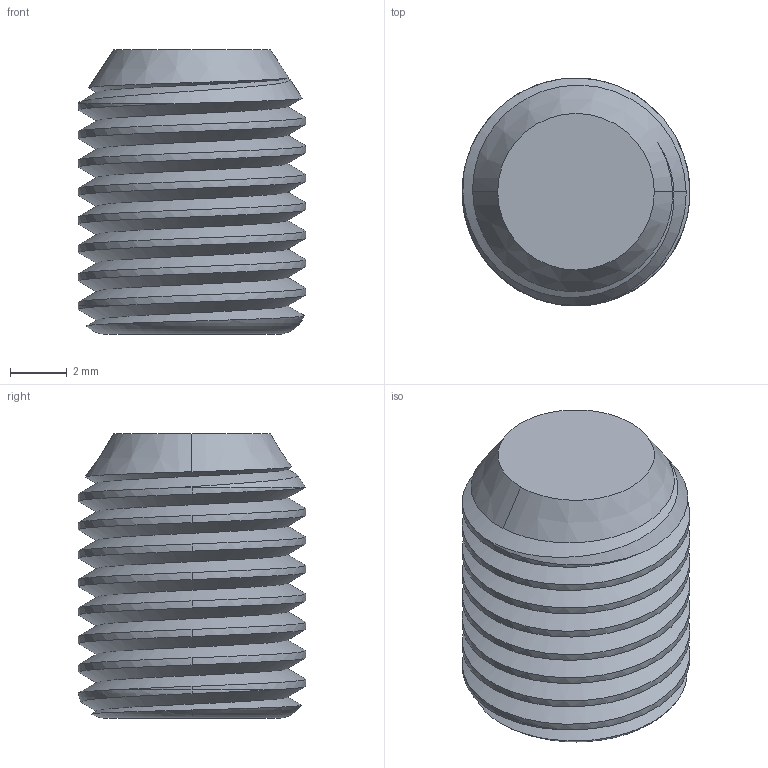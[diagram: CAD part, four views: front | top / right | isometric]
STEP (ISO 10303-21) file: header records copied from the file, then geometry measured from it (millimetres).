
FILE_DESCRIPTION (( 'STEP AP203' ), '1' );
FILE_NAME ('154-CE-IFB-M8.STEP', '2015-07-09T09:07:46', ( '' ), ( '' ), 'SwSTEP 2.0', 'SolidWorks 2013', '' );
FILE_SCHEMA (( 'CONFIG_CONTROL_DESIGN' ));
Length unit declared in the file: millimetre
Products named in the file (1): 154-CE-IFB-M8
Bounding box: 8 x 8 x 10 mm (x, y, z)
Volume: 383.1 mm3; surface area: 483.4 mm2
Topology: 1 solids, 1 shells, 34 faces, 91 edges, 60 vertices
Faces by surface type: cylinder 16, plane 9, cone 4, torus 3, bspline 2
Entity records: 2366 total; most frequent: CARTESIAN_POINT 1550, ORIENTED_EDGE 182, DIRECTION 125, EDGE_CURVE 91, VERTEX_POINT 60, AXIS2_PLACEMENT_3D 44, LINE 37, VECTOR 37
